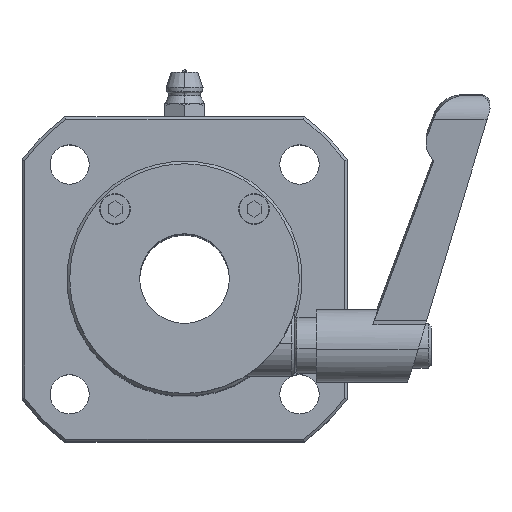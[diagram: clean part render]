
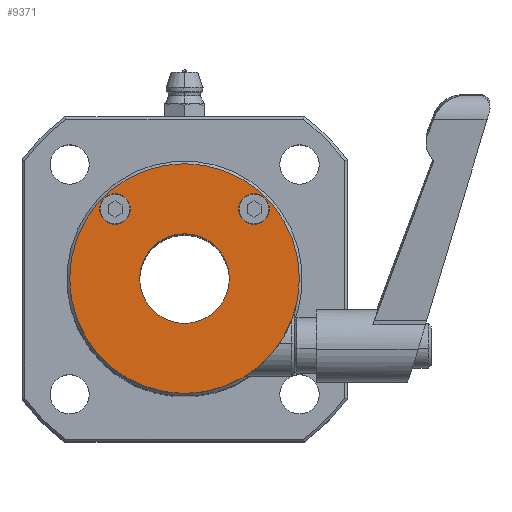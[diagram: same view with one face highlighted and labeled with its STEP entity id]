
A CAD part, top view. The second image highlights one B-rep face of the part: STEP entity #9371.
In plain terms, the highlighted planar face has unit normal (0, 0, 1).
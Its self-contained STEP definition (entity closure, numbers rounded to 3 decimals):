
#101 = DIRECTION ( 'NONE',  ( 0., 0., 1. ) ) ;
#469 = CARTESIAN_POINT ( 'NONE',  ( -13.034, 11.928, 48.5 ) ) ;
#831 = CIRCLE ( 'NONE', #5894, 2.75 ) ;
#1011 = FACE_BOUND ( 'NONE', #3622, .T. ) ;
#1156 = AXIS2_PLACEMENT_3D ( 'NONE', #1879, #101, #5952 ) ;
#1314 = ORIENTED_EDGE ( 'NONE', *, *, #5905, .T. ) ;
#1387 = CARTESIAN_POINT ( 'NONE',  ( -3.384, -0.472, 48.5 ) ) ;
#1452 = DIRECTION ( 'NONE',  ( 0., 0., 1. ) ) ;
#1595 = VERTEX_POINT ( 'NONE', #5434 ) ;
#1632 = CARTESIAN_POINT ( 'NONE',  ( -3.384, -0.472, 48.5 ) ) ;
#1696 = DIRECTION ( 'NONE',  ( 1., 0., 0. ) ) ;
#1710 = DIRECTION ( 'NONE',  ( 1., 0., 0. ) ) ;
#1879 = CARTESIAN_POINT ( 'NONE',  ( -3.384, -0.472, 48.5 ) ) ;
#2057 = CARTESIAN_POINT ( 'NONE',  ( 4.616, -0.472, 48.5 ) ) ;
#2063 = PLANE ( 'NONE',  #1156 ) ;
#2183 = VERTEX_POINT ( 'NONE', #2057 ) ;
#2426 = CARTESIAN_POINT ( 'NONE',  ( -3.384, -0.472, 48.5 ) ) ;
#2581 = VERTEX_POINT ( 'NONE', #11802 ) ;
#2637 = AXIS2_PLACEMENT_3D ( 'NONE', #5530, #8449, #9292 ) ;
#2828 = AXIS2_PLACEMENT_3D ( 'NONE', #2426, #10240, #5371 ) ;
#2839 = ORIENTED_EDGE ( 'NONE', *, *, #5458, .F. ) ;
#3268 = EDGE_CURVE ( 'NONE', #7349, #5295, #11358, .T. ) ;
#3622 = EDGE_LOOP ( 'NONE', ( #9012, #2839 ) ) ;
#3897 = DIRECTION ( 'NONE',  ( 0., 0., 1. ) ) ;
#3974 = CIRCLE ( 'NONE', #6657, 2.75 ) ;
#4016 = EDGE_CURVE ( 'NONE', #11781, #2581, #5499, .T. ) ;
#4562 = DIRECTION ( 'NONE',  ( 0., 0., 1. ) ) ;
#4655 = CIRCLE ( 'NONE', #7911, 2.75 ) ;
#4698 = FACE_BOUND ( 'NONE', #4923, .T. ) ;
#4738 = CARTESIAN_POINT ( 'NONE',  ( -18.534, 11.928, 48.5 ) ) ;
#4923 = EDGE_LOOP ( 'NONE', ( #9290, #10069 ) ) ;
#5206 = CARTESIAN_POINT ( 'NONE',  ( 11.766, 11.928, 48.5 ) ) ;
#5295 = VERTEX_POINT ( 'NONE', #469 ) ;
#5371 = DIRECTION ( 'NONE',  ( 1., 0., 0. ) ) ;
#5434 = CARTESIAN_POINT ( 'NONE',  ( 6.266, 11.928, 48.5 ) ) ;
#5458 = EDGE_CURVE ( 'NONE', #2183, #10117, #10441, .T. ) ;
#5499 = CIRCLE ( 'NONE', #2637, 20.5 ) ;
#5530 = CARTESIAN_POINT ( 'NONE',  ( -3.384, -0.472, 48.5 ) ) ;
#5659 = DIRECTION ( 'NONE',  ( 0., 0., 1. ) ) ;
#5894 = AXIS2_PLACEMENT_3D ( 'NONE', #6615, #5659, #1696 ) ;
#5905 = EDGE_CURVE ( 'NONE', #2581, #11781, #6057, .T. ) ;
#5952 = DIRECTION ( 'NONE',  ( 1., 0., 0. ) ) ;
#6057 = CIRCLE ( 'NONE', #6910, 20.5 ) ;
#6569 = CARTESIAN_POINT ( 'NONE',  ( -15.784, 11.928, 48.5 ) ) ;
#6615 = CARTESIAN_POINT ( 'NONE',  ( 9.016, 11.928, 48.5 ) ) ;
#6657 = AXIS2_PLACEMENT_3D ( 'NONE', #10280, #4562, #7577 ) ;
#6910 = AXIS2_PLACEMENT_3D ( 'NONE', #1632, #9677, #7682 ) ;
#7032 = EDGE_CURVE ( 'NONE', #1595, #9146, #831, .T. ) ;
#7151 = DIRECTION ( 'NONE',  ( 1., 0., 0. ) ) ;
#7216 = CARTESIAN_POINT ( 'NONE',  ( -23.884, -0.472, 48.5 ) ) ;
#7349 = VERTEX_POINT ( 'NONE', #4738 ) ;
#7471 = AXIS2_PLACEMENT_3D ( 'NONE', #6569, #10483, #1710 ) ;
#7577 = DIRECTION ( 'NONE',  ( 1., 0., 0. ) ) ;
#7682 = DIRECTION ( 'NONE',  ( 1., 0., 0. ) ) ;
#7714 = CIRCLE ( 'NONE', #2828, 8. ) ;
#7911 = AXIS2_PLACEMENT_3D ( 'NONE', #10943, #3897, #11769 ) ;
#8449 = DIRECTION ( 'NONE',  ( 0., 0., 1. ) ) ;
#9012 = ORIENTED_EDGE ( 'NONE', *, *, #12552, .F. ) ;
#9115 = ORIENTED_EDGE ( 'NONE', *, *, #10007, .F. ) ;
#9146 = VERTEX_POINT ( 'NONE', #5206 ) ;
#9290 = ORIENTED_EDGE ( 'NONE', *, *, #7032, .F. ) ;
#9292 = DIRECTION ( 'NONE',  ( 1., 0., 0. ) ) ;
#9371 = ADVANCED_FACE ( 'NONE', ( #4698, #10782, #9753, #1011 ), #2063, .T. ) ;
#9564 = CARTESIAN_POINT ( 'NONE',  ( -11.384, -0.472, 48.5 ) ) ;
#9677 = DIRECTION ( 'NONE',  ( 0., 0., 1. ) ) ;
#9753 = FACE_OUTER_BOUND ( 'NONE', #12326, .T. ) ;
#9768 = EDGE_LOOP ( 'NONE', ( #10032, #9115 ) ) ;
#10007 = EDGE_CURVE ( 'NONE', #5295, #7349, #3974, .T. ) ;
#10032 = ORIENTED_EDGE ( 'NONE', *, *, #3268, .F. ) ;
#10069 = ORIENTED_EDGE ( 'NONE', *, *, #12394, .F. ) ;
#10117 = VERTEX_POINT ( 'NONE', #9564 ) ;
#10240 = DIRECTION ( 'NONE',  ( 0., 0., 1. ) ) ;
#10280 = CARTESIAN_POINT ( 'NONE',  ( -15.784, 11.928, 48.5 ) ) ;
#10441 = CIRCLE ( 'NONE', #11658, 8. ) ;
#10483 = DIRECTION ( 'NONE',  ( 0., 0., 1. ) ) ;
#10782 = FACE_BOUND ( 'NONE', #9768, .T. ) ;
#10943 = CARTESIAN_POINT ( 'NONE',  ( 9.016, 11.928, 48.5 ) ) ;
#11358 = CIRCLE ( 'NONE', #7471, 2.75 ) ;
#11658 = AXIS2_PLACEMENT_3D ( 'NONE', #1387, #1452, #7151 ) ;
#11769 = DIRECTION ( 'NONE',  ( 1., 0., 0. ) ) ;
#11781 = VERTEX_POINT ( 'NONE', #7216 ) ;
#11802 = CARTESIAN_POINT ( 'NONE',  ( 17.116, -0.472, 48.5 ) ) ;
#12192 = ORIENTED_EDGE ( 'NONE', *, *, #4016, .T. ) ;
#12326 = EDGE_LOOP ( 'NONE', ( #12192, #1314 ) ) ;
#12394 = EDGE_CURVE ( 'NONE', #9146, #1595, #4655, .T. ) ;
#12552 = EDGE_CURVE ( 'NONE', #10117, #2183, #7714, .T. ) ;
